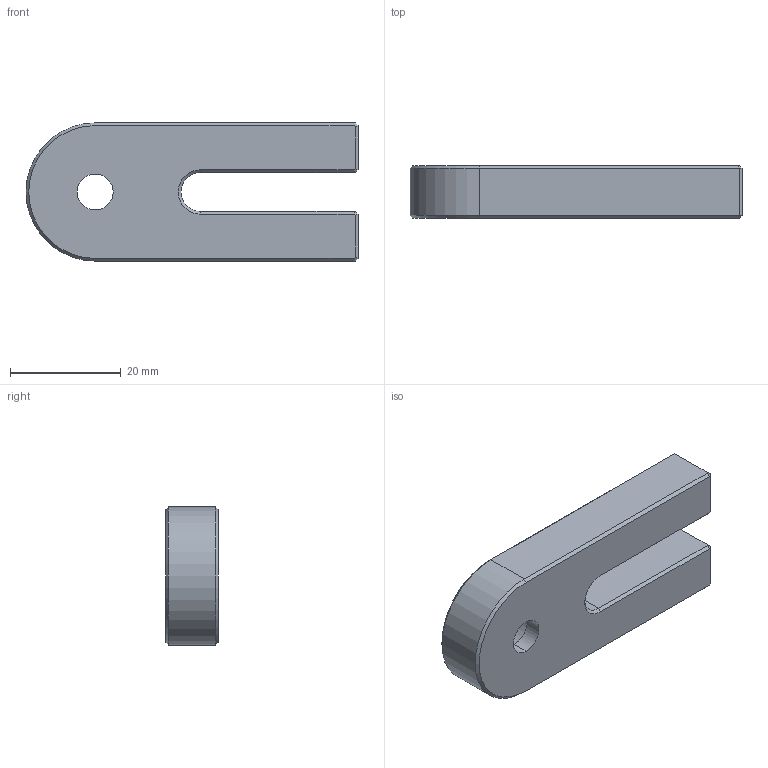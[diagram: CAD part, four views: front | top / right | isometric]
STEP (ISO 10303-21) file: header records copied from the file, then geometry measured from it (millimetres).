
FILE_DESCRIPTION (( 'STEP AP203' ), '1' );
FILE_NAME ('BP-8A.step', '2019-05-09T08:56:11', ( '' ), ( '' ), 'SwSTEP 2.0', 'SolidWorks 2016', '' );
FILE_SCHEMA (( 'CONFIG_CONTROL_DESIGN' ));
Length unit declared in the file: millimetre
Products named in the file (1): BP-8A
Bounding box: 60 x 9.5 x 25 mm (x, y, z)
Volume: 10758.3 mm3; surface area: 4599.3 mm2
Topology: 1 solids, 1 shells, 43 faces, 96 edges, 56 vertices
Faces by surface type: plane 33, cylinder 6, cone 4
Entity records: 1235 total; most frequent: DIRECTION 200, CARTESIAN_POINT 196, ORIENTED_EDGE 192, EDGE_CURVE 96, VECTOR 80, LINE 80, AXIS2_PLACEMENT_3D 60, VERTEX_POINT 56
